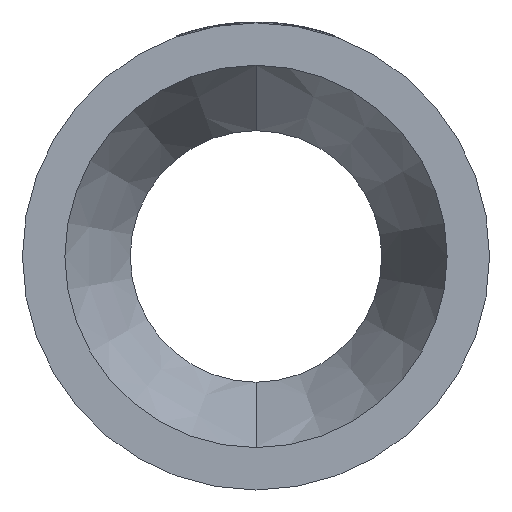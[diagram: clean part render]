
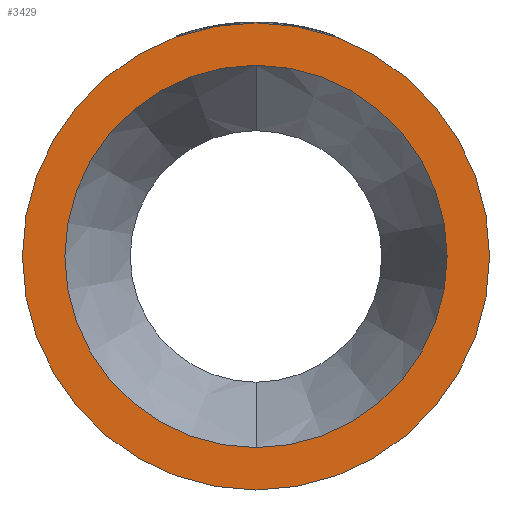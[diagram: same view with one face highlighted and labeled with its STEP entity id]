
A CAD part, left-side view. The second image highlights one B-rep face of the part: STEP entity #3429.
In plain terms, the highlighted planar face has unit normal (-1, 0, 0).
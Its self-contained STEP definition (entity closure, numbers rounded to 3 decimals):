
#31 = AXIS2_PLACEMENT_3D ( 'NONE', #635, #2613, #914 ) ;
#34 = CARTESIAN_POINT ( 'NONE',  ( 0., 0., -102.3 ) ) ;
#42 = EDGE_CURVE ( 'NONE', #594, #2376, #186, .T. ) ;
#71 = CIRCLE ( 'NONE', #31, 125. ) ;
#111 = CIRCLE ( 'NONE', #2770, 102.3 ) ;
#164 = VERTEX_POINT ( 'NONE', #34 ) ;
#186 = CIRCLE ( 'NONE', #2063, 125. ) ;
#222 = AXIS2_PLACEMENT_3D ( 'NONE', #3154, #1481, #3424 ) ;
#246 = EDGE_LOOP ( 'NONE', ( #2783, #531 ) ) ;
#448 = EDGE_LOOP ( 'NONE', ( #700, #3092 ) ) ;
#531 = ORIENTED_EDGE ( 'NONE', *, *, #3442, .T. ) ;
#594 = VERTEX_POINT ( 'NONE', #2974 ) ;
#635 = CARTESIAN_POINT ( 'NONE',  ( 0., 0., 0. ) ) ;
#646 = CARTESIAN_POINT ( 'NONE',  ( 0., 0., 0. ) ) ;
#651 = CARTESIAN_POINT ( 'NONE',  ( 0., 0., 0. ) ) ;
#700 = ORIENTED_EDGE ( 'NONE', *, *, #1580, .F. ) ;
#914 = DIRECTION ( 'NONE',  ( 0., 0., 1. ) ) ;
#925 = DIRECTION ( 'NONE',  ( 0., 0., 1. ) ) ;
#929 = DIRECTION ( 'NONE',  ( 0., 0., 1. ) ) ;
#1095 = FACE_BOUND ( 'NONE', #448, .T. ) ;
#1204 = DIRECTION ( 'NONE',  ( 0., 0., 1. ) ) ;
#1278 = DIRECTION ( 'NONE',  ( -1., 0., 0. ) ) ;
#1481 = DIRECTION ( 'NONE',  ( 1., 0., 0. ) ) ;
#1580 = EDGE_CURVE ( 'NONE', #3227, #164, #111, .T. ) ;
#1963 = CIRCLE ( 'NONE', #3566, 102.3 ) ;
#2041 = PLANE ( 'NONE',  #222 ) ;
#2063 = AXIS2_PLACEMENT_3D ( 'NONE', #2633, #1278, #1204 ) ;
#2092 = EDGE_CURVE ( 'NONE', #164, #3227, #1963, .T. ) ;
#2108 = CARTESIAN_POINT ( 'NONE',  ( 0., 0., -125. ) ) ;
#2376 = VERTEX_POINT ( 'NONE', #2108 ) ;
#2508 = FACE_OUTER_BOUND ( 'NONE', #246, .T. ) ;
#2613 = DIRECTION ( 'NONE',  ( -1., 0., 0. ) ) ;
#2629 = DIRECTION ( 'NONE',  ( -1., 0., 0. ) ) ;
#2632 = DIRECTION ( 'NONE',  ( -1., 0., 0. ) ) ;
#2633 = CARTESIAN_POINT ( 'NONE',  ( 0., 0., 0. ) ) ;
#2770 = AXIS2_PLACEMENT_3D ( 'NONE', #651, #2632, #929 ) ;
#2783 = ORIENTED_EDGE ( 'NONE', *, *, #42, .T. ) ;
#2974 = CARTESIAN_POINT ( 'NONE',  ( 0., 0., 125. ) ) ;
#3092 = ORIENTED_EDGE ( 'NONE', *, *, #2092, .F. ) ;
#3154 = CARTESIAN_POINT ( 'NONE',  ( 0., 102.3, 0. ) ) ;
#3227 = VERTEX_POINT ( 'NONE', #3328 ) ;
#3328 = CARTESIAN_POINT ( 'NONE',  ( 0., 0., 102.3 ) ) ;
#3424 = DIRECTION ( 'NONE',  ( 0., 0., -1. ) ) ;
#3429 = ADVANCED_FACE ( 'NONE', ( #1095, #2508 ), #2041, .F. ) ;
#3442 = EDGE_CURVE ( 'NONE', #2376, #594, #71, .T. ) ;
#3566 = AXIS2_PLACEMENT_3D ( 'NONE', #646, #2629, #925 ) ;
